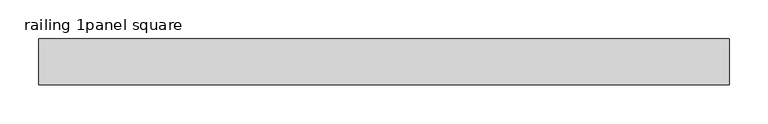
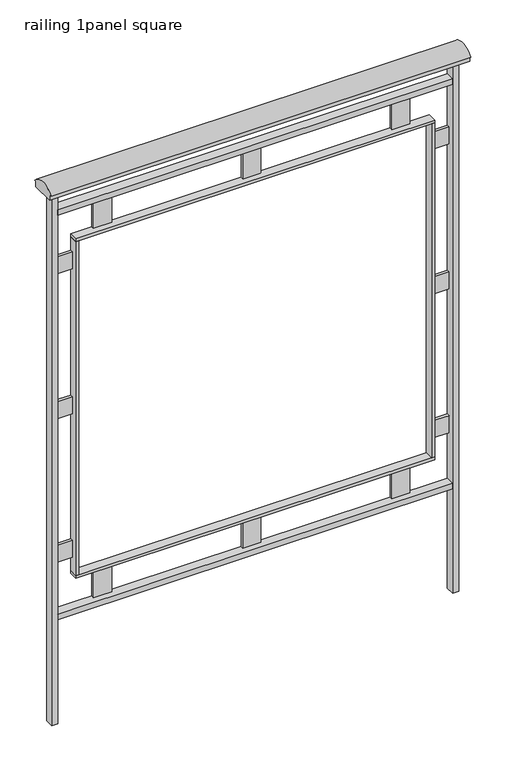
"""IFC4 building model written with IfcOpenShell, lengths in millimetres: proxy geometry, railing(inprogress)3 : railing 1panel square."""

from ifc_helpers import new_model, si_unit, point, frame, frame_2d, origin, place, context, project, spatial, polyline, circle_curve, trimmed, segment, composite_curve, outline, extrude, source, transform, mapped, element, save


def railing_1panel_square_2b676750(model_context):
    return source(origin(), model_context, "Body", "SweptSolid", [
        extrude(outline(composite_curve([segment(polyline([(-14.1100455, 1052.7246444), (-19.2876824, 1052.7246444)]), True, "CONTINUOUS"), segment(trimmed(circle_curve(frame_2d((10.4074773, 1028.43798)), 38.36202), [point((-19.2876824, 1052.7246444))], [point((40.102637, 1052.7246444))], False, "CARTESIAN"), True, "CONTINUOUS"), segment(polyline([(40.102637, 1052.7246444), (36.6899545, 1052.7246444), (36.6899545, 1040.0246444), (-14.1100455, 1040.0246444), (-14.1100455, 1052.7246444)]), True, "CONTINUOUS")], self_intersect=False)), frame((82.55, 0.0, 0.0), z_axis=(1.0, 0.0, 0.0), x_axis=(0.0, 1.0, 0.0)), (0.0, 0.0, 1.0), 891.38125),
        extrude(outline(polyline([(863.0557952, 19.05), (863.0557952, 12.7), (824.5770863, 12.7), (824.5770863, 19.05), (863.0557952, 19.05)])), frame((0.0, 0.0, 922.8085884), z_axis=(0.0, 0.0, 1.0), x_axis=(1.0, 0.0, 0.0)), (0.0, 0.0, 1.0), 66.675),
        extrude(outline(polyline([(863.0557952, 19.05), (863.0557952, 12.7), (824.5770863, 12.7), (824.5770863, 19.05), (863.0557952, 19.05)])), frame((0.0, 0.0, 94.1335884), z_axis=(0.0, 0.0, 1.0), x_axis=(1.0, 0.0, 0.0)), (0.0, 0.0, 1.0), 66.675),
        extrude(outline(polyline([(191.0442048, 12.7), (191.0442048, 19.05), (229.5229137, 19.05), (229.5229137, 12.7), (191.0442048, 12.7)])), frame((0.0, 0.0, 922.8085884), z_axis=(0.0, 0.0, 1.0), x_axis=(1.0, 0.0, 0.0)), (0.0, 0.0, 1.0), 66.675),
        extrude(outline(polyline([(191.0442048, 12.7), (191.0442048, 19.05), (229.5229137, 19.05), (229.5229137, 12.7), (191.0442048, 12.7)])), frame((0.0, 0.0, 94.1335884), z_axis=(0.0, 0.0, 1.0), x_axis=(1.0, 0.0, 0.0)), (0.0, 0.0, 1.0), 66.675),
        extrude(outline(polyline([(146.05, 19.05), (146.05, 12.7), (107.95, 12.7), (107.95, 19.05), (146.05, 19.05)])), frame((0.0, 0.0, 200.4960884), z_axis=(0.0, 0.0, 1.0), x_axis=(1.0, 0.0, 0.0)), (0.0, 0.0, 1.0), 38.1),
        extrude(outline(polyline([(146.05, 19.05), (146.05, 12.7), (107.95, 12.7), (107.95, 19.05), (146.05, 19.05)])), frame((0.0, 0.0, 522.7585884), z_axis=(0.0, 0.0, 1.0), x_axis=(1.0, 0.0, 0.0)), (0.0, 0.0, 1.0), 38.1),
        extrude(outline(polyline([(146.05, 19.05), (146.05, 12.7), (107.95, 12.7), (107.95, 19.05), (146.05, 19.05)])), frame((0.0, 0.0, 848.1960884), z_axis=(0.0, 0.0, 1.0), x_axis=(1.0, 0.0, 0.0)), (0.0, 0.0, 1.0), 38.1),
        extrude(outline(polyline([(908.05, 12.7), (908.05, 19.05), (946.15, 19.05), (946.15, 12.7), (908.05, 12.7)])), frame((0.0, 0.0, 200.4960884), z_axis=(0.0, 0.0, 1.0), x_axis=(1.0, 0.0, 0.0)), (0.0, 0.0, 1.0), 38.1),
        extrude(outline(polyline([(908.05, 12.7), (908.05, 19.05), (946.15, 19.05), (946.15, 12.7), (908.05, 12.7)])), frame((0.0, 0.0, 522.7585884), z_axis=(0.0, 0.0, 1.0), x_axis=(1.0, 0.0, 0.0)), (0.0, 0.0, 1.0), 38.1),
        extrude(outline(polyline([(908.05, 12.7), (908.05, 19.05), (946.15, 19.05), (946.15, 12.7), (908.05, 12.7)])), frame((0.0, 0.0, 848.1960884), z_axis=(0.0, 0.0, 1.0), x_axis=(1.0, 0.0, 0.0)), (0.0, 0.0, 1.0), 38.1),
        extrude(outline(polyline([(508.0, 12.7), (508.0, 19.05), (546.1, 19.05), (546.1, 12.7), (508.0, 12.7)])), frame((0.0, 0.0, 922.8085884), z_axis=(0.0, 0.0, 1.0), x_axis=(1.0, 0.0, 0.0)), (0.0, 0.0, 1.0), 66.675),
        extrude(outline(polyline([(508.0, 12.7), (508.0, 19.05), (546.1, 19.05), (546.1, 12.7), (508.0, 12.7)])), frame((0.0, 0.0, 94.1335884), z_axis=(0.0, 0.0, 1.0), x_axis=(1.0, 0.0, 0.0)), (0.0, 0.0, 1.0), 66.675),
        extrude(outline(polyline([(152.4, 19.05), (152.4, 0.0), (146.05, 0.0), (146.05, 19.05), (152.4, 19.05)])), frame((0.0, 0.0, 167.1585884), z_axis=(0.0, 0.0, 1.0), x_axis=(1.0, 0.0, 0.0)), (0.0, 0.0, 1.0), 749.3),
        extrude(outline(polyline([(107.95, 19.05), (107.95, 0.0), (95.25, 0.0), (95.25, 19.05), (107.95, 19.05)])), frame((0.0, 0.0, -152.4), z_axis=(0.0, 0.0, 1.0), x_axis=(1.0, 0.0, 0.0)), (0.0, 0.0, 1.0), 1192.4246444),
        extrude(outline(polyline([(901.7, 19.05), (908.05, 19.05), (908.05, 0.0), (901.7, 0.0), (901.7, 19.05)])), frame((0.0, 0.0, 167.1585884), z_axis=(0.0, 0.0, 1.0), x_axis=(1.0, 0.0, 0.0)), (0.0, 0.0, 1.0), 749.3),
        extrude(outline(polyline([(146.05, 0.0), (146.05, 19.05), (908.05, 19.05), (908.05, 0.0), (146.05, 0.0)])), frame((0.0, 0.0, 916.4585884), z_axis=(0.0, 0.0, 1.0), x_axis=(1.0, 0.0, 0.0)), (0.0, 0.0, 1.0), 6.35),
        extrude(outline(polyline([(107.95, 0.0), (107.95, 19.05), (946.15, 19.05), (946.15, 0.0), (107.95, 0.0)])), frame((0.0, 0.0, 81.4335884), z_axis=(0.0, 0.0, 1.0), x_axis=(1.0, 0.0, 0.0)), (0.0, 0.0, 1.0), 12.7),
        extrude(outline(polyline([(107.6177069, 0.0), (107.6177069, 19.05), (946.15, 19.05), (946.15, 0.0), (107.6177069, 0.0)])), frame((0.0, 0.0, 989.4835884), z_axis=(0.0, 0.0, 1.0), x_axis=(1.0, 0.0, 0.0)), (0.0, 0.0, 1.0), 12.7),
        extrude(outline(polyline([(146.05, 0.0), (146.05, 19.05), (908.05, 19.05), (908.05, 0.0), (146.05, 0.0)])), frame((0.0, 0.0, 160.8085884), z_axis=(0.0, 0.0, 1.0), x_axis=(1.0, 0.0, 0.0)), (0.0, 0.0, 1.0), 6.35),
        extrude(outline(polyline([(946.15, 19.05), (958.85, 19.05), (958.85, 0.0), (946.15, 0.0), (946.15, 19.05)])), frame((0.0, 0.0, -152.4), z_axis=(0.0, 0.0, 1.0), x_axis=(1.0, 0.0, 0.0)), (0.0, 0.0, 1.0), 1192.6835884),
    ])


if __name__ == "__main__":
    model = new_model("IFC4")
    model_context = context("Model", 3, world=origin())
    ifc_project = project(units=[si_unit("LENGTHUNIT", "METRE", prefix="MILLI")], contexts=[model_context])
    site = spatial("IfcSite", under=ifc_project)
    building = spatial("IfcBuilding", under=site)
    placement = place(None, origin())
    railing_1panel_square_shape = railing_1panel_square_2b676750(model_context)
    element("IfcBuildingElementProxy", 1, Name="railing(inprogress)3 : railing 1panel square", ObjectType="railing(inprogress)3 : railing 1panel square", at=placement, inside=building, context=model_context, shape_type="MappedRepresentation", body=[
        mapped(railing_1panel_square_shape, transform((0.0, 0.0, 0.0), x_axis=(1.0, 0.0, 0.0), y_axis=(0.0, 1.0, 0.0), z_axis=(0.0, 0.0, 1.0))),
    ])
    save(model, "model.ifc")
